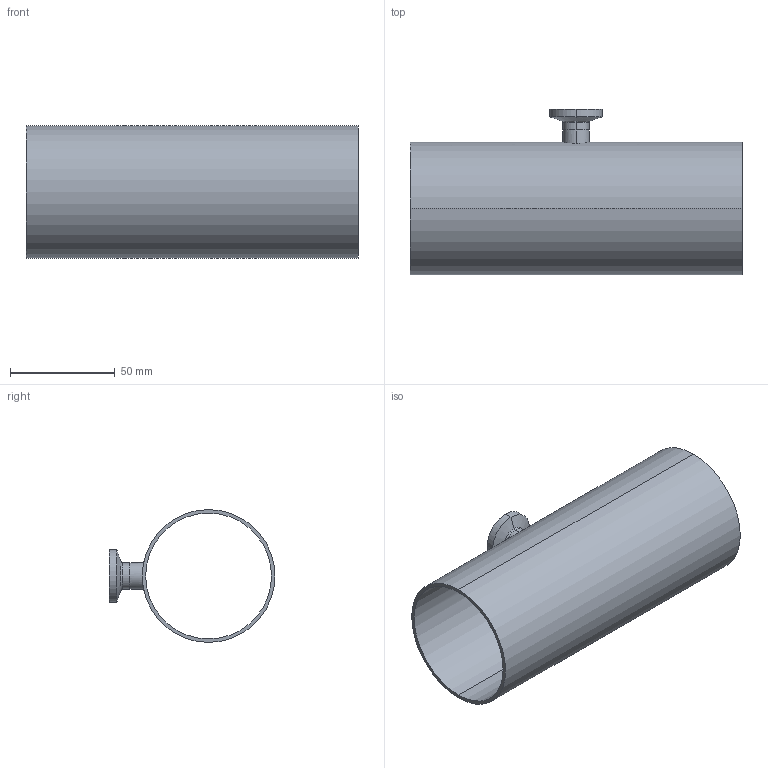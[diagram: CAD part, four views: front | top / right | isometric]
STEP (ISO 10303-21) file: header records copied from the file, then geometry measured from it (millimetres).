
FILE_DESCRIPTION (( 'STEP AP214' ), '1' );
FILE_NAME ('TE7RWWCS6L2.5x.5-...STEP', '2016-05-23T12:05:41', ( 'eran' ), ( '' ), 'SwSTEP 2.0', 'SolidWorks 2016', '' );
FILE_SCHEMA (( 'AUTOMOTIVE_DESIGN' ));
Length unit declared in the file: millimetre
Products named in the file (1): TE7RWWCS6L2.5x.5-..
Bounding box: 158.8 x 79.35 x 63.5 mm (x, y, z)
Volume: 53036.4 mm3; surface area: 64411 mm2
Topology: 2 solids, 2 shells, 34 faces, 70 edges, 42 vertices
Faces by surface type: cylinder 16, bspline 8, plane 6, cone 4
Entity records: 1187 total; most frequent: CARTESIAN_POINT 427, DIRECTION 158, ORIENTED_EDGE 140, EDGE_CURVE 70, AXIS2_PLACEMENT_3D 69, CIRCLE 42, EDGE_LOOP 42, VERTEX_POINT 42
